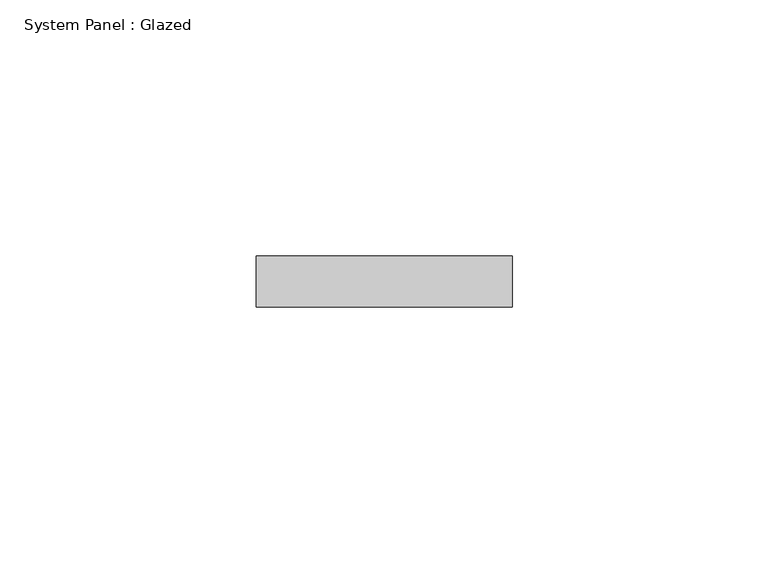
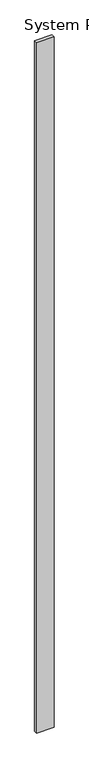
"""IFC4 building model written with IfcOpenShell, lengths in millimetres: plate geometry, System Panel : Glazed."""

from ifc_helpers import new_model, si_unit, origin, origin_with_axes, place, context, project, spatial, polyline, outline, extrude, source, transform, mapped, element, save


def system_panel_glazed_d3338a85(model_context):
    return source(origin(), model_context, "Body", "SweptSolid", [
        extrude(outline(polyline([(25.0, 0.0), (-25.0, 0.0), (-25.0, 10.0), (25.0, 10.0), (25.0, 0.0)])), origin_with_axes(), (0.0, 0.0, 1.0), 2100.0),
    ])


if __name__ == "__main__":
    model = new_model("IFC4")
    model_context = context("Model", 3, world=origin())
    ifc_project = project(units=[si_unit("LENGTHUNIT", "METRE", prefix="MILLI")], contexts=[model_context])
    site = spatial("IfcSite", under=ifc_project)
    building = spatial("IfcBuilding", under=site)
    placement = place(None, origin())
    system_panel_glazed_shape = system_panel_glazed_d3338a85(model_context)
    element("IfcPlate", 1, ObjectType="System Panel : Glazed", at=placement, inside=building, context=model_context, shape_type="MappedRepresentation", body=[
        mapped(system_panel_glazed_shape, transform((0.0, 0.0, 0.0), x_axis=(1.0, 0.0, 0.0), y_axis=(0.0, 1.0, 0.0), z_axis=(0.0, 0.0, 1.0))),
    ])
    save(model, "model.ifc")
